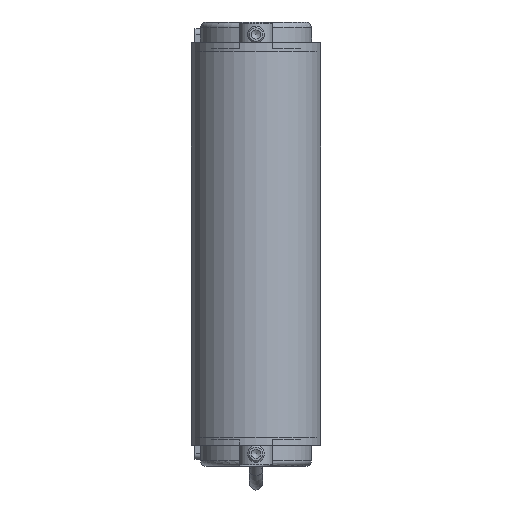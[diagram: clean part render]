
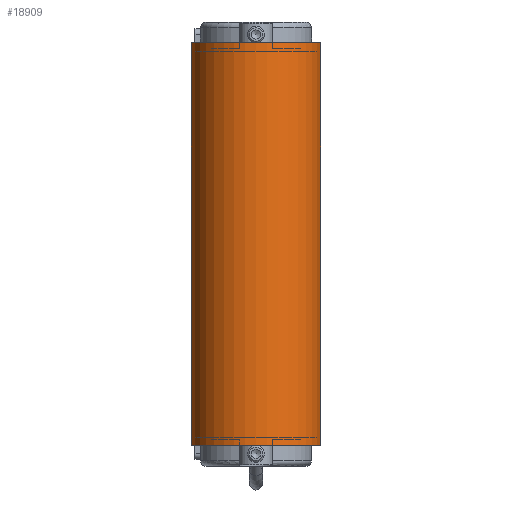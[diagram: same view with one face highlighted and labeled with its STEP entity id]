
A CAD part, front view. The second image highlights one B-rep face of the part: STEP entity #18909.
In plain terms, the highlighted cylindrical face has radius 23.3 mm (diameter 46.6 mm), a partial arc.
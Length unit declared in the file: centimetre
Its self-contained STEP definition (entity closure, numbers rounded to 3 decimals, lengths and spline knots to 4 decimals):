
#547=CYLINDRICAL_SURFACE('',#20232,2.33);
#1175=CIRCLE('',#20227,2.33);
#1178=CIRCLE('',#20233,2.33);
#1975=FACE_OUTER_BOUND('',#3004,.T.);
#3004=EDGE_LOOP('',(#12822,#12823,#12824,#12825));
#4297=LINE('',#27896,#5813);
#4298=LINE('',#27900,#5814);
#5813=VECTOR('',#22876,1.);
#5814=VECTOR('',#22881,1.);
#7504=VERTEX_POINT('',#27879);
#7505=VERTEX_POINT('',#27880);
#7510=VERTEX_POINT('',#27894);
#7511=VERTEX_POINT('',#27898);
#9577=EDGE_CURVE('',#7504,#7505,#1175,.T.);
#9585=EDGE_CURVE('',#7510,#7505,#4297,.T.);
#9586=EDGE_CURVE('',#7510,#7511,#1178,.T.);
#9587=EDGE_CURVE('',#7504,#7511,#4298,.T.);
#12822=ORIENTED_EDGE('',*,*,#9586,.T.);
#12823=ORIENTED_EDGE('',*,*,#9587,.F.);
#12824=ORIENTED_EDGE('',*,*,#9577,.T.);
#12825=ORIENTED_EDGE('',*,*,#9585,.F.);
#18909=ADVANCED_FACE('',(#1975),#547,.T.);
#20227=AXIS2_PLACEMENT_3D('',#27881,#22861,#22862);
#20232=AXIS2_PLACEMENT_3D('',#27897,#22877,#22878);
#20233=AXIS2_PLACEMENT_3D('',#27899,#22879,#22880);
#22861=DIRECTION('center_axis',(0.,0.,
-1.));
#22862=DIRECTION('ref_axis',(-1.,0.,0.));
#22876=DIRECTION('',(0.,0.,1.));
#22877=DIRECTION('center_axis',(0.,0.,
-1.));
#22878=DIRECTION('ref_axis',(-1.,0.,0.));
#22879=DIRECTION('center_axis',(0.,0.,
1.));
#22880=DIRECTION('ref_axis',(-1.,0.,0.));
#22881=DIRECTION('',(0.,0.,-1.));
#27879=CARTESIAN_POINT('',(2.33,-107.,7.25));
#27880=CARTESIAN_POINT('',(-2.33,-107.,7.25));
#27881=CARTESIAN_POINT('Origin',(0.,-107.,7.25));
#27894=CARTESIAN_POINT('',(-2.33,-107.,-7.25));
#27896=CARTESIAN_POINT('',(-2.33,-107.,0.));
#27897=CARTESIAN_POINT('Origin',(0.,-107.,0.));
#27898=CARTESIAN_POINT('',(2.33,-107.,-7.25));
#27899=CARTESIAN_POINT('Origin',(0.,-107.,-7.25));
#27900=CARTESIAN_POINT('',(2.33,-107.,0.));
